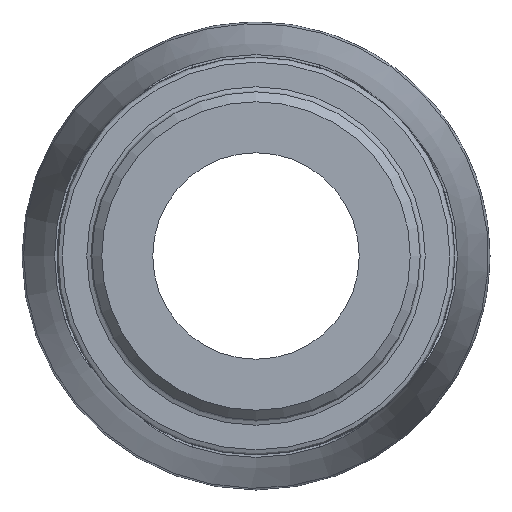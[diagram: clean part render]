
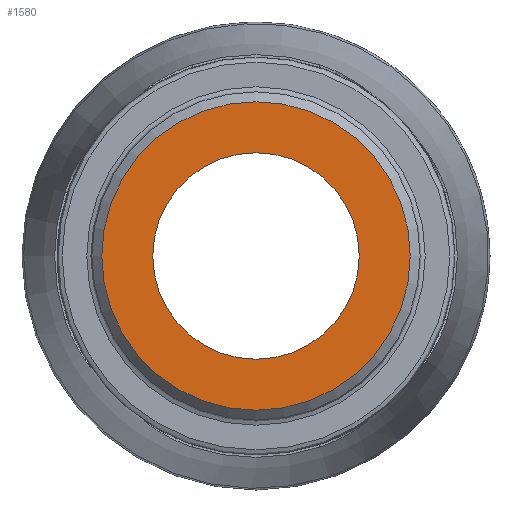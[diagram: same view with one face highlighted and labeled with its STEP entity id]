
A CAD part, left-side view. The second image highlights one B-rep face of the part: STEP entity #1580.
In plain terms, the highlighted planar face has unit normal (-1, 0, 0).
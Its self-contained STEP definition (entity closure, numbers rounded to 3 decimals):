
#261=PLANE('',#1734);
#352=FACE_BOUND('',#496,.T.);
#388=FACE_OUTER_BOUND('',#495,.T.);
#495=EDGE_LOOP('',(#1222));
#496=EDGE_LOOP('',(#1223));
#626=CIRCLE('',#1730,28.019);
#629=CIRCLE('',#1735,18.75);
#736=VERTEX_POINT('',#2800);
#739=VERTEX_POINT('',#2808);
#914=EDGE_CURVE('',#736,#736,#626,.T.);
#917=EDGE_CURVE('',#739,#739,#629,.T.);
#1222=ORIENTED_EDGE('',*,*,#914,.F.);
#1223=ORIENTED_EDGE('',*,*,#917,.T.);
#1580=ADVANCED_FACE('',(#388,#352),#261,.T.);
#1730=AXIS2_PLACEMENT_3D('',#2801,#2013,#2014);
#1734=AXIS2_PLACEMENT_3D('',#2807,#2021,#2022);
#1735=AXIS2_PLACEMENT_3D('',#2809,#2023,#2024);
#2013=DIRECTION('center_axis',(1.,0.,0.));
#2014=DIRECTION('ref_axis',(0.,-1.,0.));
#2021=DIRECTION('center_axis',(-1.,0.,0.));
#2022=DIRECTION('ref_axis',(0.,0.,1.));
#2023=DIRECTION('center_axis',(1.,0.,0.));
#2024=DIRECTION('ref_axis',(0.,0.,-1.));
#2800=CARTESIAN_POINT('',(0.,28.019,0.));
#2801=CARTESIAN_POINT('Origin',(0.,0.,0.));
#2807=CARTESIAN_POINT('Origin',(0.,29.807,0.));
#2808=CARTESIAN_POINT('',(0.,18.75,0.));
#2809=CARTESIAN_POINT('Origin',(0.,0.,0.));
